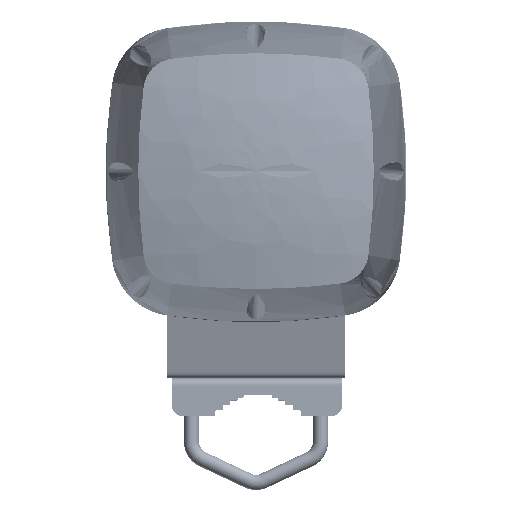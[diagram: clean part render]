
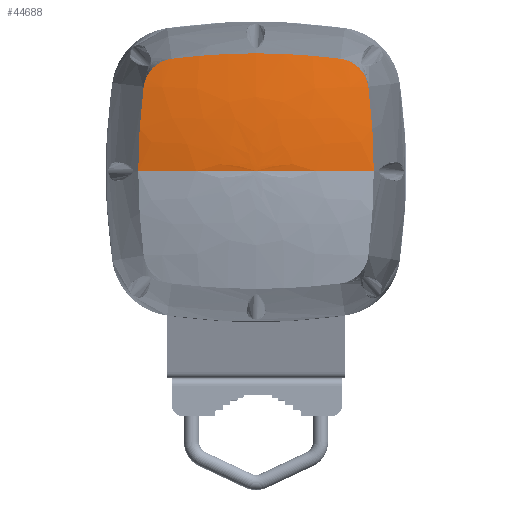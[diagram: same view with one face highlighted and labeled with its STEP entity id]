
A CAD part, top view. The second image highlights one B-rep face of the part: STEP entity #44688.
In plain terms, the highlighted free-form (B-spline) face has degree [2, 2] with [3, 5] control points.
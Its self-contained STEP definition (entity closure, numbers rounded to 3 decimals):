
#553=(
BOUNDED_SURFACE()
B_SPLINE_SURFACE(2,2,((#74946,#74947,#74948,#74949,#74950),(#74951,#74952,
#74953,#74954,#74955),(#74956,#74957,#74958,#74959,#74960)),
 .UNSPECIFIED.,.F.,.F.,.F.)
B_SPLINE_SURFACE_WITH_KNOTS((3,3),(3,2,3),(0.,126.5),(0.,198.706,
397.411),.UNSPECIFIED.)
GEOMETRIC_REPRESENTATION_ITEM()
RATIONAL_B_SPLINE_SURFACE(((1.,0.707,1.,0.707,1.),
(1.,0.707,1.,0.707,1.),(1.,0.707,1.,
0.707,1.)))
REPRESENTATION_ITEM('')
SURFACE()
);
#10152=FACE_OUTER_BOUND('',#12810,.T.);
#12810=EDGE_LOOP('',(#33620,#33621,#33622,#33623,#33624,#33625,#33626));
#15458=B_SPLINE_CURVE_WITH_KNOTS('',3,(#74963,#74964,#74965,#74966,#74967,
#74968,#74969,#74970,#74971,#74972,#74973,#74974,#74975,#74976),
 .UNSPECIFIED.,.F.,.F.,(4,2,2,2,2,2,4),(0.,0.068,0.675,
1.128,1.582,1.904,2.256),
 .UNSPECIFIED.);
#15459=B_SPLINE_CURVE_WITH_KNOTS('',3,(#74978,#74979,#74980,#74981,#74982,
#74983,#74984,#74985,#74986,#74987,#74988,#74989,#74990,#74991),
 .UNSPECIFIED.,.F.,.F.,(4,2,2,2,2,2,4),(0.,1.278,2.456,
4.468,6.481,8.7,8.937),
 .UNSPECIFIED.);
#15460=B_SPLINE_CURVE_WITH_KNOTS('',3,(#74993,#74994,#74995,#74996,#74997,
#74998,#74999,#75000,#75001,#75002,#75003,#75004,#75005,#75006),
 .UNSPECIFIED.,.F.,.F.,(4,2,2,2,2,2,4),(0.,0.068,0.675,
1.128,1.582,1.904,2.256),
 .UNSPECIFIED.);
#15461=B_SPLINE_CURVE_WITH_KNOTS('',3,(#75008,#75009,#75010,#75011,#75012,
#75013,#75014,#75015),.UNSPECIFIED.,.F.,.F.,(4,2,2,4),(0.,2.235,
3.365,4.469),.UNSPECIFIED.);
#15462=B_SPLINE_CURVE_WITH_KNOTS('',2,(#75017,#75018,#75019),
 .UNSPECIFIED.,.F.,.F.,(3,3),(-60.181,0.),.UNSPECIFIED.);
#15463=B_SPLINE_CURVE_WITH_KNOTS('',2,(#75021,#75022,#75023),
 .UNSPECIFIED.,.F.,.F.,(3,3),(0.,60.181),.UNSPECIFIED.);
#15464=B_SPLINE_CURVE_WITH_KNOTS('',3,(#75024,#75025,#75026,#75027,#75028,
#75029,#75030,#75031,#75032,#75033),.UNSPECIFIED.,.F.,.F.,(4,2,2,2,4),(0.,
1.104,2.233,4.187,4.468),
 .UNSPECIFIED.);
#19881=VERTEX_POINT('',#74961);
#19882=VERTEX_POINT('',#74962);
#19883=VERTEX_POINT('',#74977);
#19884=VERTEX_POINT('',#74992);
#19885=VERTEX_POINT('',#75007);
#19886=VERTEX_POINT('',#75016);
#19887=VERTEX_POINT('',#75020);
#24933=EDGE_CURVE('',#19881,#19882,#15458,.T.);
#24934=EDGE_CURVE('',#19882,#19883,#15459,.T.);
#24935=EDGE_CURVE('',#19883,#19884,#15460,.T.);
#24936=EDGE_CURVE('',#19884,#19885,#15461,.T.);
#24937=EDGE_CURVE('',#19885,#19886,#15462,.T.);
#24938=EDGE_CURVE('',#19886,#19887,#15463,.T.);
#24939=EDGE_CURVE('',#19887,#19881,#15464,.T.);
#33620=ORIENTED_EDGE('',*,*,#24933,.T.);
#33621=ORIENTED_EDGE('',*,*,#24934,.T.);
#33622=ORIENTED_EDGE('',*,*,#24935,.T.);
#33623=ORIENTED_EDGE('',*,*,#24936,.T.);
#33624=ORIENTED_EDGE('',*,*,#24937,.T.);
#33625=ORIENTED_EDGE('',*,*,#24938,.T.);
#33626=ORIENTED_EDGE('',*,*,#24939,.T.);
#44688=ADVANCED_FACE('',(#10152),#553,.T.);
#74946=CARTESIAN_POINT('Ctrl Pts',(0.,0.,
215.));
#74947=CARTESIAN_POINT('Ctrl Pts',(0.,0.,
215.));
#74948=CARTESIAN_POINT('Ctrl Pts',(0.,0.,
215.));
#74949=CARTESIAN_POINT('Ctrl Pts',(0.,0.,
215.));
#74950=CARTESIAN_POINT('Ctrl Pts',(0.,0.,
215.));
#74951=CARTESIAN_POINT('Ctrl Pts',(67.,0.,215.));
#74952=CARTESIAN_POINT('Ctrl Pts',(67.,67.,215.));
#74953=CARTESIAN_POINT('Ctrl Pts',(0.,67.,
215.));
#74954=CARTESIAN_POINT('Ctrl Pts',(-67.,67.,215.));
#74955=CARTESIAN_POINT('Ctrl Pts',(-67.,0.,215.));
#74956=CARTESIAN_POINT('Ctrl Pts',(126.5,0.,187.));
#74957=CARTESIAN_POINT('Ctrl Pts',(126.5,126.5,187.));
#74958=CARTESIAN_POINT('Ctrl Pts',(0.,126.5,
187.));
#74959=CARTESIAN_POINT('Ctrl Pts',(-126.5,126.5,187.));
#74960=CARTESIAN_POINT('Ctrl Pts',(-126.5,0.,187.));
#74961=CARTESIAN_POINT('',(59.197,44.443,205.882));
#74962=CARTESIAN_POINT('',(44.439,59.198,205.883));
#74963=CARTESIAN_POINT('Ctrl Pts',(59.198,44.444,205.882));
#74964=CARTESIAN_POINT('Ctrl Pts',(59.169,44.666,205.854));
#74965=CARTESIAN_POINT('Ctrl Pts',(59.136,44.888,205.826));
#74966=CARTESIAN_POINT('Ctrl Pts',(58.763,47.092,205.56));
#74967=CARTESIAN_POINT('Ctrl Pts',(58.079,49.005,205.381));
#74968=CARTESIAN_POINT('Ctrl Pts',(56.323,52.066,205.19));
#74969=CARTESIAN_POINT('Ctrl Pts',(55.402,53.27,205.149));
#74970=CARTESIAN_POINT('Ctrl Pts',(53.266,55.406,205.149));
#74971=CARTESIAN_POINT('Ctrl Pts',(52.061,56.327,205.191));
#74972=CARTESIAN_POINT('Ctrl Pts',(49.821,57.611,205.33));
#74973=CARTESIAN_POINT('Ctrl Pts',(48.843,58.054,205.408));
#74974=CARTESIAN_POINT('Ctrl Pts',(46.728,58.784,205.61));
#74975=CARTESIAN_POINT('Ctrl Pts',(45.592,59.05,205.737));
#74976=CARTESIAN_POINT('Ctrl Pts',(44.439,59.198,205.883));
#74977=CARTESIAN_POINT('',(-44.443,59.197,205.882));
#74978=CARTESIAN_POINT('Ctrl Pts',(44.439,59.198,205.883));
#74979=CARTESIAN_POINT('Ctrl Pts',(40.247,59.738,206.414));
#74980=CARTESIAN_POINT('Ctrl Pts',(36.037,60.203,206.868));
#74981=CARTESIAN_POINT('Ctrl Pts',(27.917,60.95,207.596));
#74982=CARTESIAN_POINT('Ctrl Pts',(24.01,61.243,207.88));
#74983=CARTESIAN_POINT('Ctrl Pts',(13.41,61.857,208.476));
#74984=CARTESIAN_POINT('Ctrl Pts',(6.705,62.052,208.663));
#74985=CARTESIAN_POINT('Ctrl Pts',(-6.709,62.051,208.663));
#74986=CARTESIAN_POINT('Ctrl Pts',(-13.413,61.857,208.475));
#74987=CARTESIAN_POINT('Ctrl Pts',(-27.473,61.041,207.686));
#74988=CARTESIAN_POINT('Ctrl Pts',(-34.816,60.379,207.043));
#74989=CARTESIAN_POINT('Ctrl Pts',(-42.887,59.394,206.077));
#74990=CARTESIAN_POINT('Ctrl Pts',(-43.665,59.296,205.981));
#74991=CARTESIAN_POINT('Ctrl Pts',(-44.443,59.196,205.883));
#74992=CARTESIAN_POINT('',(-59.198,44.439,205.883));
#74993=CARTESIAN_POINT('Ctrl Pts',(-44.444,59.198,205.882));
#74994=CARTESIAN_POINT('Ctrl Pts',(-44.666,59.169,205.854));
#74995=CARTESIAN_POINT('Ctrl Pts',(-44.888,59.136,205.826));
#74996=CARTESIAN_POINT('Ctrl Pts',(-47.092,58.763,205.56));
#74997=CARTESIAN_POINT('Ctrl Pts',(-49.005,58.079,205.381));
#74998=CARTESIAN_POINT('Ctrl Pts',(-52.066,56.323,205.19));
#74999=CARTESIAN_POINT('Ctrl Pts',(-53.27,55.402,205.149));
#75000=CARTESIAN_POINT('Ctrl Pts',(-55.406,53.266,205.149));
#75001=CARTESIAN_POINT('Ctrl Pts',(-56.327,52.061,205.191));
#75002=CARTESIAN_POINT('Ctrl Pts',(-57.611,49.821,205.33));
#75003=CARTESIAN_POINT('Ctrl Pts',(-58.054,48.843,205.408));
#75004=CARTESIAN_POINT('Ctrl Pts',(-58.784,46.728,205.61));
#75005=CARTESIAN_POINT('Ctrl Pts',(-59.05,45.592,205.737));
#75006=CARTESIAN_POINT('Ctrl Pts',(-59.198,44.439,205.883));
#75007=CARTESIAN_POINT('',(-62.052,0.,208.663));
#75008=CARTESIAN_POINT('Ctrl Pts',(-59.198,44.439,205.883));
#75009=CARTESIAN_POINT('Ctrl Pts',(-60.143,37.107,206.812));
#75010=CARTESIAN_POINT('Ctrl Pts',(-60.857,29.722,207.506));
#75011=CARTESIAN_POINT('Ctrl Pts',(-61.576,18.55,208.203));
#75012=CARTESIAN_POINT('Ctrl Pts',(-61.757,14.792,208.378));
#75013=CARTESIAN_POINT('Ctrl Pts',(-61.993,7.356,208.606));
#75014=CARTESIAN_POINT('Ctrl Pts',(-62.052,3.678,208.663));
#75015=CARTESIAN_POINT('Ctrl Pts',(-62.052,0.,
208.663));
#75016=CARTESIAN_POINT('',(0.,0.,215.));
#75017=CARTESIAN_POINT('Ctrl Pts',(-62.052,0.,
208.663));
#75018=CARTESIAN_POINT('Ctrl Pts',(-31.874,0.,
215.));
#75019=CARTESIAN_POINT('Ctrl Pts',(0.,0.,215.));
#75020=CARTESIAN_POINT('',(62.052,0.,208.663));
#75021=CARTESIAN_POINT('Ctrl Pts',(0.,0.,215.));
#75022=CARTESIAN_POINT('Ctrl Pts',(31.874,0.,
215.));
#75023=CARTESIAN_POINT('Ctrl Pts',(62.052,0.,
208.663));
#75024=CARTESIAN_POINT('Ctrl Pts',(62.052,0.,
208.663));
#75025=CARTESIAN_POINT('Ctrl Pts',(62.051,3.678,208.663));
#75026=CARTESIAN_POINT('Ctrl Pts',(61.993,7.356,208.606));
#75027=CARTESIAN_POINT('Ctrl Pts',(61.756,14.794,208.378));
#75028=CARTESIAN_POINT('Ctrl Pts',(61.575,18.552,208.203));
#75029=CARTESIAN_POINT('Ctrl Pts',(60.916,28.789,207.565));
#75030=CARTESIAN_POINT('Ctrl Pts',(60.318,35.249,206.983));
#75031=CARTESIAN_POINT('Ctrl Pts',(59.431,42.595,206.113));
#75032=CARTESIAN_POINT('Ctrl Pts',(59.315,43.519,206.));
#75033=CARTESIAN_POINT('Ctrl Pts',(59.196,44.443,205.883));
